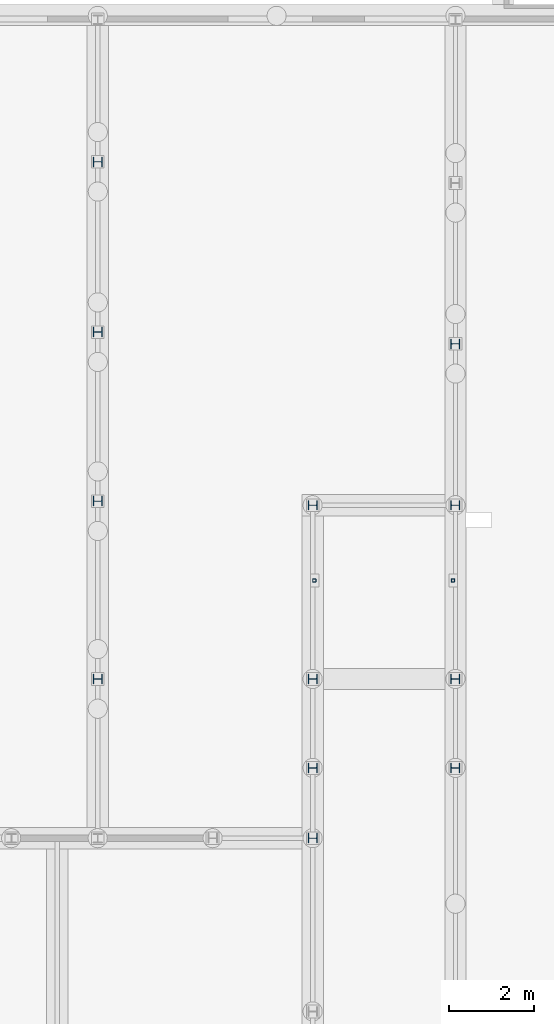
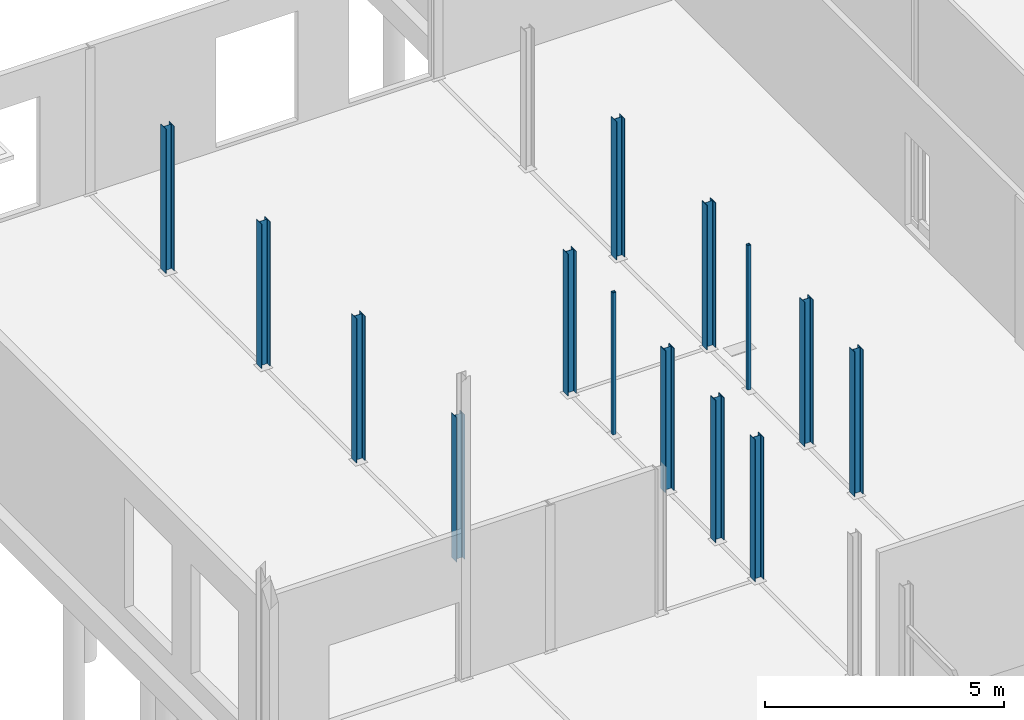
# One storey, part 3 of 18: 14 columns.
"""IFC2X3 building model written with IfcOpenShell, lengths in millimetres."""

from ifc_helpers import new_model, entity, si_unit, converted_unit, derived_unit, direction, frame, frame_2d, origin, place, context, subcontext, project, spatial, polyline, circle_curve, parameter, trimmed, segment, composite_curve, i_section, outline, extrude, source, transform, mapped, material, type_object, type_shapes, element, save


model = new_model("IFC2X3")

# Units and contexts
model_context = context("Model", 3, precision=0.01, world=origin(), true_north=direction((6.12303176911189e-17, 1.0)))
body_context = subcontext(model_context, "Body", "Model", "MODEL_VIEW")
ifc_project = project(units=[si_unit("LENGTHUNIT", "METRE", prefix="MILLI"), si_unit("AREAUNIT", "SQUARE_METRE"), si_unit("VOLUMEUNIT", "CUBIC_METRE"), converted_unit("PLANEANGLEUNIT", "DEGREE", entity("IfcRatioMeasure", 0.0174532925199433), si_unit("PLANEANGLEUNIT", "RADIAN"), dimensions=[0, 0, 0, 0, 0, 0, 0]), si_unit("MASSUNIT", "GRAM", prefix="KILO"), derived_unit("MASSDENSITYUNIT", [(si_unit("MASSUNIT", "GRAM", prefix="KILO"), 1), (si_unit("LENGTHUNIT", "METRE"), -3)]), derived_unit("MOMENTOFINERTIAUNIT", [(si_unit("LENGTHUNIT", "METRE"), 4)]), si_unit("TIMEUNIT", "SECOND"), si_unit("FREQUENCYUNIT", "HERTZ"), si_unit("THERMODYNAMICTEMPERATUREUNIT", "DEGREE_CELSIUS"), derived_unit("THERMALTRANSMITTANCEUNIT", [(si_unit("MASSUNIT", "GRAM", prefix="KILO"), 1), (si_unit("THERMODYNAMICTEMPERATUREUNIT", "KELVIN"), -1), (si_unit("TIMEUNIT", "SECOND"), -3)]), derived_unit("VOLUMETRICFLOWRATEUNIT", [(si_unit("LENGTHUNIT", "METRE"), 3), (si_unit("TIMEUNIT", "SECOND"), -1)]), si_unit("ELECTRICCURRENTUNIT", "AMPERE"), si_unit("ELECTRICVOLTAGEUNIT", "VOLT"), si_unit("POWERUNIT", "WATT"), si_unit("FORCEUNIT", "NEWTON", prefix="KILO"), si_unit("ILLUMINANCEUNIT", "LUX"), si_unit("LUMINOUSFLUXUNIT", "LUMEN"), si_unit("LUMINOUSINTENSITYUNIT", "CANDELA"), derived_unit("USERDEFINED", [(si_unit("MASSUNIT", "GRAM", prefix="KILO"), -1), (si_unit("LENGTHUNIT", "METRE"), -2), (si_unit("TIMEUNIT", "SECOND"), 3), (si_unit("LUMINOUSFLUXUNIT", "LUMEN"), 1)]), derived_unit("LINEARVELOCITYUNIT", [(si_unit("LENGTHUNIT", "METRE"), 1), (si_unit("TIMEUNIT", "SECOND"), -1)]), si_unit("PRESSUREUNIT", "PASCAL"), derived_unit("USERDEFINED", [(si_unit("LENGTHUNIT", "METRE"), -2), (si_unit("MASSUNIT", "GRAM", prefix="KILO"), 1), (si_unit("TIMEUNIT", "SECOND"), -2)]), derived_unit("LINEARFORCEUNIT", [(si_unit("MASSUNIT", "GRAM", prefix="KILO"), 1), (si_unit("LENGTHUNIT", "METRE"), 1), (si_unit("TIMEUNIT", "SECOND"), -2), (si_unit("LENGTHUNIT", "METRE"), -1)]), derived_unit("PLANARFORCEUNIT", [(si_unit("MASSUNIT", "GRAM", prefix="KILO"), 1), (si_unit("LENGTHUNIT", "METRE"), 1), (si_unit("TIMEUNIT", "SECOND"), -2), (si_unit("LENGTHUNIT", "METRE"), -2)])], contexts=[model_context])

# Site, building, storey
site_placement = place(None, origin())
site = spatial("IfcSite", under=ifc_project, at=site_placement, Name="Default", CompositionType="ELEMENT")
building_placement = place(site_placement, origin())
building = spatial("IfcBuilding", under=site, at=building_placement, CompositionType="ELEMENT")
storey_placement = place(building_placement, frame((0.0, 0.0, -1085.0)))
storey = spatial("IfcBuildingStorey", under=building, at=storey_placement, Name="-00 fundatie", CompositionType="ELEMENT", Elevation=-1085.0)

# Columns
ifc_material_1 = material(Name="h2_staal")
column_type_1 = type_object("IfcColumnType", Name="BERSnl_28_SCO_TLB_kolom hea_gen_ISR:kolom gen hea220", PredefinedType="COLUMN", material=ifc_material_1)
shared_shape_1 = source(origin(), body_context, "Body", "SweptSolid", [
    extrude(outline(composite_curve([segment(polyline([(94.0, -110.0), (105.0, -110.0)]), True, "CONTINUOUS"), segment(polyline([(105.0, -110.0), (105.0, 110.0)]), True, "CONTINUOUS"), segment(polyline([(105.0, 110.0), (94.0, 110.0)]), True, "CONTINUOUS"), segment(polyline([(94.0, 110.0), (94.0, 21.5000000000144)]), True, "CONTINUOUS"), segment(trimmed(circle_curve(frame_2d((76.0, 21.5000000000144), x_axis=(1.0, 0.0)), 18.0), [parameter(270.0)], [parameter(0.0)], True, "PARAMETER"), False, "CONTINUOUS"), segment(polyline([(76.0, 3.50000000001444), (-76.0, 3.50000000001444)]), True, "CONTINUOUS"), segment(trimmed(circle_curve(frame_2d((-76.0, 21.5000000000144), x_axis=(0.0, -1.0)), 18.0), [parameter(270.0)], [parameter(0.0)], True, "PARAMETER"), False, "CONTINUOUS"), segment(polyline([(-94.0, 21.5000000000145), (-94.0, 110.0)]), True, "CONTINUOUS"), segment(polyline([(-94.0, 110.0), (-105.0, 110.0)]), True, "CONTINUOUS"), segment(polyline([(-105.0, 110.0), (-105.0, -110.0)]), True, "CONTINUOUS"), segment(polyline([(-105.0, -110.0), (-94.0, -110.0)]), True, "CONTINUOUS"), segment(polyline([(-94.0, -110.0), (-94.0, -21.5000000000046)]), True, "CONTINUOUS"), segment(trimmed(circle_curve(frame_2d((-76.0, -21.5000000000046), x_axis=(-1.0, 0.0)), 18.0), [parameter(269.999999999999)], [parameter(0.0)], True, "PARAMETER"), False, "CONTINUOUS"), segment(polyline([(-76.0, -3.50000000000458), (76.0, -3.50000000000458)]), True, "CONTINUOUS"), segment(trimmed(circle_curve(frame_2d((76.0, -21.5000000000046), x_axis=(0.0, 1.0)), 18.0), [parameter(270.0)], [parameter(0.0)], True, "PARAMETER"), False, "CONTINUOUS"), segment(polyline([(94.0, -21.5000000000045), (94.0, -110.0)]), True, "CONTINUOUS")], self_intersect=False)), frame((0.0, 0.0, -50.0), z_axis=(0.0, 0.0, 1.0), x_axis=(0.0, -1.0, 0.0)), (0.0, 0.0, 1.0), 3685.0),
])
type_shapes(column_type_1, [shared_shape_1])
for number, where, z_axis, x_axis, name in (
    (1, (20569.4349765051, 32067.2966282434, 1085.0), (0.0, 0.0, 1.0), (0.0, 1.0, 0.0), "BERSnl_28_SCO_TLB_kolom hea_gen_ISR:kolom gen hea220"),
    (2, (20569.4349765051, 28067.2966282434, 1085.0), (0.0, 0.0, 1.0), (0.0, 1.0, 0.0), "BERSnl_28_SCO_TLB_kolom hea_gen_ISR:kolom gen hea220"),
    (3, (20569.4349765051, 24097.2966282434, 1085.0), (0.0, 0.0, 1.0), (0.0, 1.0, 0.0), "BERSnl_28_SCO_TLB_kolom hea_gen_ISR:kolom gen hea220"),
    (4, (20569.4349765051, 19921.8399254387, 1085.0), (0.0, 0.0, 1.0), (0.0, 1.0, 0.0), "BERSnl_28_SCO_TLB_kolom hea_gen_ISR:kolom gen hea220"),
    (5, (28969.4349765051, 24002.2966282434, 1085.0), (0.0, 0.0, 1.0), (0.0, 1.0, 0.0), "BERSnl_28_SCO_TLB_kolom hea_gen_ISR:kolom gen hea220"),
    (6, (28969.4349765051, 19922.2966282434, 1085.0), (0.0, 0.0, 1.0), (0.0, 1.0, 0.0), "BERSnl_28_SCO_TLB_kolom hea_gen_ISR:kolom gen hea220"),
):
    element("IfcColumn", number, at=place(storey_placement, frame(where, z_axis=z_axis, x_axis=x_axis)), inside=storey, type_object=column_type_1, Name=name, ObjectType="BERSnl_28_SCO_TLB_kolom hea_gen_ISR:kolom gen hea220", context=body_context, shape_type="MappedRepresentation", body=[
        mapped(shared_shape_1, transform((0.0, 0.0, 0.0), scale=1.0)),
    ])
column_type_2 = type_object("IfcColumnType", Name="BERSnl_28_SCO_TLB_kolom hea_gen_ISR:kolom gen hea220", PredefinedType="COLUMN", material=ifc_material_1)
shared_shape_2 = source(origin(), body_context, "Body", "SweptSolid", [
    extrude(i_section(OverallWidth=220.000000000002, OverallDepth=210.0, WebThickness=7.00000000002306, FlangeThickness=11.0000000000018, FilletRadius=17.9999999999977, at=frame_2d((0.0, -6.49436060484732e-12), x_axis=(1.0, 0.0))), frame((28969.4349765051, 27792.2966282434, -50.0), z_axis=(0.0, 0.0, 1.0), x_axis=(0.0, -1.0, 0.0)), (0.0, 0.0, 1.0), 3525.0),
])
type_shapes(column_type_2, [shared_shape_2])
column_1_placement = place(storey_placement, frame((0.0, 0.0, 1085.0)))
element("IfcColumn", 7, at=column_1_placement, inside=storey, type_object=column_type_2, Name="BERSnl_28_SCO_TLB_kolom hea_gen_ISR:kolom gen hea220", ObjectType="BERSnl_28_SCO_TLB_kolom hea_gen_ISR:kolom gen hea220", context=body_context, shape_type="MappedRepresentation", body=[
    mapped(shared_shape_2, transform((0.0, 0.0, 0.0), scale=1.0)),
])
column_type_3 = type_object("IfcColumnType", Name="BERSnl_28_SCO_TLB_kolom hea_gen_ISR:kolom gen hea220", PredefinedType="COLUMN", material=ifc_material_1)
shared_shape_3 = source(origin(), body_context, "Body", "SweptSolid", [
    extrude(i_section(OverallWidth=220.0, OverallDepth=210.0, WebThickness=7.00000000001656, FlangeThickness=11.0000000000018, FilletRadius=18.0000000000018, at=frame_2d((5.41433564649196e-12, -2.1600499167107e-12), x_axis=(1.0, 0.0))), frame((28969.4349765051, 17833.5697997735, -50.0), z_axis=(0.0, 0.0, 1.0), x_axis=(0.0, -1.0, 0.0)), (0.0, 0.0, 1.0), 3685.0),
])
type_shapes(column_type_3, [shared_shape_3])
column_2_placement = place(storey_placement, frame((0.0, 0.0, 1085.0)))
element("IfcColumn", 8, at=column_2_placement, inside=storey, type_object=column_type_3, Name="BERSnl_28_SCO_TLB_kolom hea_gen_ISR:kolom gen hea220", ObjectType="BERSnl_28_SCO_TLB_kolom hea_gen_ISR:kolom gen hea220", context=body_context, shape_type="MappedRepresentation", body=[
    mapped(shared_shape_3, transform((0.0, 0.0, 0.0), scale=1.0)),
])
column_type_4 = type_object("IfcColumnType", Name="BERSnl_28_SCO_TLB_kolom hea_gen_ISR:kolom gen hea220", PredefinedType="COLUMN", material=ifc_material_1)
shared_shape_4 = source(origin(), body_context, "Body", "SweptSolid", [
    extrude(i_section(OverallWidth=220.000000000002, OverallDepth=210.0, WebThickness=7.00000000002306, FlangeThickness=11.0000000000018, FilletRadius=17.9999999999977, at=frame_2d((8.66151594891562e-12, -6.49436060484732e-12), x_axis=(1.0, 0.0))), frame((25615.4349765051, 24002.2966282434, -50.0), z_axis=(0.0, 0.0, 1.0), x_axis=(0.0, -1.0, 0.0)), (0.0, 0.0, 1.0), 3619.99999999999),
])
type_shapes(column_type_4, [shared_shape_4])
column_3_placement = place(storey_placement, frame((0.0, 0.0, 1085.0)))
element("IfcColumn", 9, at=column_3_placement, inside=storey, type_object=column_type_4, Name="BERSnl_28_SCO_TLB_kolom hea_gen_ISR:kolom gen hea220", ObjectType="BERSnl_28_SCO_TLB_kolom hea_gen_ISR:kolom gen hea220", context=body_context, shape_type="MappedRepresentation", body=[
    mapped(shared_shape_4, transform((0.0, 0.0, 0.0), scale=1.0)),
])
column_type_5 = type_object("IfcColumnType", Name="BERSnl_28_SCO_TLB_kolom hea_gen_ISR:kolom gen hea220", PredefinedType="COLUMN", material=ifc_material_1)
shared_shape_5 = source(origin(), body_context, "Body", "SweptSolid", [
    extrude(i_section(OverallWidth=220.000000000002, OverallDepth=210.0, WebThickness=7.00000000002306, FlangeThickness=11.0000000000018, FilletRadius=17.9999999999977, at=frame_2d((0.0, -2.1600499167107e-12), x_axis=(1.0, 0.0))), frame((25615.4349765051, 19922.2966282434, -50.0), z_axis=(0.0, 0.0, 1.0), x_axis=(0.0, -1.0, 0.0)), (0.0, 0.0, 1.0), 3619.99999999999),
])
type_shapes(column_type_5, [shared_shape_5])
column_4_placement = place(storey_placement, frame((0.0, 0.0, 1085.0)))
element("IfcColumn", 10, at=column_4_placement, inside=storey, type_object=column_type_5, Name="BERSnl_28_SCO_TLB_kolom hea_gen_ISR:kolom gen hea220", ObjectType="BERSnl_28_SCO_TLB_kolom hea_gen_ISR:kolom gen hea220", context=body_context, shape_type="MappedRepresentation", body=[
    mapped(shared_shape_5, transform((0.0, 0.0, 0.0), scale=1.0)),
])
ifc_material_2 = material(Name="00_Staal_generiek")
column_type_6 = type_object("IfcColumnType", Name="BERSnl_28_SCO_TLB_kolom koker_gen_ISR:kolom gen k80x80x8", PredefinedType="COLUMN", material=ifc_material_2)
shared_shape_6 = source(origin(), body_context, "Body", "SweptSolid", [
    extrude(outline(composite_curve([segment(trimmed(circle_curve(frame_2d((30.0, 30.0), x_axis=(1.0, 0.0)), 10.0), [parameter(360.0)], [parameter(89.9999999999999)], True, "PARAMETER"), True, "CONTINUOUS"), segment(polyline([(30.0, 40.0), (-30.0, 40.0)]), True, "CONTINUOUS"), segment(trimmed(circle_curve(frame_2d((-30.0, 30.0), x_axis=(1.0, 0.0)), 10.0), [parameter(90.0000000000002)], [parameter(180.0)], True, "PARAMETER"), True, "CONTINUOUS"), segment(polyline([(-40.0, 30.0), (-40.0, -30.0)]), True, "CONTINUOUS"), segment(trimmed(circle_curve(frame_2d((-30.0, -30.0), x_axis=(1.0, 0.0)), 10.0), [parameter(180.0)], [parameter(270.0)], True, "PARAMETER"), True, "CONTINUOUS"), segment(polyline([(-30.0, -40.0), (30.0, -40.0)]), True, "CONTINUOUS"), segment(trimmed(circle_curve(frame_2d((30.0, -30.0), x_axis=(1.0, 0.0)), 10.0), [parameter(270.0)], [parameter(2.54444374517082e-13)], True, "PARAMETER"), True, "CONTINUOUS"), segment(polyline([(40.0, -30.0), (40.0, 30.0)]), True, "CONTINUOUS")], self_intersect=False), holes=[composite_curve([segment(polyline([(-30.0, 32.0), (30.0, 32.0)]), True, "CONTINUOUS"), segment(trimmed(circle_curve(frame_2d((30.0, 30.0), x_axis=(1.0, 0.0)), 2.0), [parameter(360.0)], [parameter(90.0000000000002)], True, "PARAMETER"), False, "CONTINUOUS"), segment(polyline([(32.0, 30.0), (32.0, -30.0)]), True, "CONTINUOUS"), segment(trimmed(circle_curve(frame_2d((30.0, -30.0), x_axis=(1.0, 0.0)), 2.0), [parameter(269.999999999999)], [parameter(359.999999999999)], True, "PARAMETER"), False, "CONTINUOUS"), segment(polyline([(30.0, -32.0), (-30.0, -32.0)]), True, "CONTINUOUS"), segment(trimmed(circle_curve(frame_2d((-30.0, -30.0), x_axis=(1.0, 0.0)), 2.0), [parameter(180.0)], [parameter(270.0)], True, "PARAMETER"), False, "CONTINUOUS"), segment(polyline([(-32.0, -30.0), (-32.0, 30.0)]), True, "CONTINUOUS"), segment(trimmed(circle_curve(frame_2d((-30.0, 30.0), x_axis=(1.0, 0.0)), 2.0), [parameter(89.9999999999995)], [parameter(180.0)], True, "PARAMETER"), False, "CONTINUOUS")], self_intersect=False)]), frame((25654.4349765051, 22237.2966282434, -50.0), z_axis=(0.0, 0.0, 1.0), x_axis=(-1.0, 0.0, 0.0)), (0.0, 0.0, 1.0), 3619.99999999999),
])
type_shapes(column_type_6, [shared_shape_6])
column_5_placement = place(storey_placement, frame((0.0, 0.0, 1085.0)))
element("IfcColumn", 11, at=column_5_placement, inside=storey, type_object=column_type_6, material=ifc_material_2, Name="BERSnl_28_SCO_TLB_kolom koker_gen_ISR:kolom gen k80x80x8", ObjectType="BERSnl_28_SCO_TLB_kolom koker_gen_ISR:kolom gen k80x80x8", context=body_context, shape_type="MappedRepresentation", body=[
    mapped(shared_shape_6, transform((0.0, 0.0, 0.0), scale=1.0)),
])
column_type_7 = type_object("IfcColumnType", Name="BERSnl_28_SCO_TLB_kolom koker_gen_ISR:kolom gen k80x80x8", PredefinedType="COLUMN", material=ifc_material_2)
shared_shape_7 = source(origin(), body_context, "Body", "SweptSolid", [
    extrude(outline(composite_curve([segment(trimmed(circle_curve(frame_2d((30.0, 30.0), x_axis=(1.0, 0.0)), 10.0), [parameter(360.0)], [parameter(89.9999999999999)], True, "PARAMETER"), True, "CONTINUOUS"), segment(polyline([(30.0, 40.0), (-30.0, 40.0)]), True, "CONTINUOUS"), segment(trimmed(circle_curve(frame_2d((-30.0, 30.0), x_axis=(1.0, 0.0)), 10.0), [parameter(90.0000000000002)], [parameter(180.0)], True, "PARAMETER"), True, "CONTINUOUS"), segment(polyline([(-40.0, 30.0), (-40.0, -30.0)]), True, "CONTINUOUS"), segment(trimmed(circle_curve(frame_2d((-30.0, -30.0), x_axis=(1.0, 0.0)), 10.0), [parameter(180.0)], [parameter(270.0)], True, "PARAMETER"), True, "CONTINUOUS"), segment(polyline([(-30.0, -40.0), (30.0, -40.0)]), True, "CONTINUOUS"), segment(trimmed(circle_curve(frame_2d((30.0, -30.0), x_axis=(1.0, 0.0)), 10.0), [parameter(270.0)], [parameter(2.54444374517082e-13)], True, "PARAMETER"), True, "CONTINUOUS"), segment(polyline([(40.0, -30.0), (40.0, 30.0)]), True, "CONTINUOUS")], self_intersect=False), holes=[composite_curve([segment(polyline([(-30.0, 32.0), (30.0, 32.0)]), True, "CONTINUOUS"), segment(trimmed(circle_curve(frame_2d((30.0, 30.0), x_axis=(1.0, 0.0)), 2.0), [parameter(360.0)], [parameter(90.0000000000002)], True, "PARAMETER"), False, "CONTINUOUS"), segment(polyline([(32.0, 30.0), (32.0, -30.0)]), True, "CONTINUOUS"), segment(trimmed(circle_curve(frame_2d((30.0, -30.0), x_axis=(1.0, 0.0)), 2.0), [parameter(269.999999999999)], [parameter(359.999999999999)], True, "PARAMETER"), False, "CONTINUOUS"), segment(polyline([(30.0, -32.0), (-30.0, -32.0)]), True, "CONTINUOUS"), segment(trimmed(circle_curve(frame_2d((-30.0, -30.0), x_axis=(1.0, 0.0)), 2.0), [parameter(180.0)], [parameter(270.0)], True, "PARAMETER"), False, "CONTINUOUS"), segment(polyline([(-32.0, -30.0), (-32.0, 30.0)]), True, "CONTINUOUS"), segment(trimmed(circle_curve(frame_2d((-30.0, 30.0), x_axis=(1.0, 0.0)), 2.0), [parameter(89.9999999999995)], [parameter(180.0)], True, "PARAMETER"), False, "CONTINUOUS")], self_intersect=False)]), frame((0.0, 0.0, -50.0), z_axis=(0.0, 0.0, 1.0), x_axis=(-1.0, 0.0, 0.0)), (0.0, 0.0, 1.0), 3685.0),
])
type_shapes(column_type_7, [shared_shape_7])
column_6_placement = place(storey_placement, frame((28909.434976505, 22237.2966282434, 1085.0)))
element("IfcColumn", 12, at=column_6_placement, inside=storey, type_object=column_type_7, material=ifc_material_2, Name="BERSnl_28_SCO_TLB_kolom koker_gen_ISR:kolom gen k80x80x8", ObjectType="BERSnl_28_SCO_TLB_kolom koker_gen_ISR:kolom gen k80x80x8", context=body_context, shape_type="MappedRepresentation", body=[
    mapped(shared_shape_7, transform((0.0, 0.0, 0.0), scale=1.0)),
])
column_type_8 = type_object("IfcColumnType", Name="BERSnl_28_SCO_TLB_kolom hea_gen_ISR:kolom gen hea220", PredefinedType="COLUMN", material=ifc_material_1)
shared_shape_8 = source(origin(), body_context, "Body", "SweptSolid", [
    extrude(i_section(OverallWidth=220.0, OverallDepth=210.0, WebThickness=7.00000000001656, FlangeThickness=11.0000000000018, FilletRadius=18.0000000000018, at=frame_2d((3.25428572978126e-12, 2.1600499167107e-12), x_axis=(1.0, 0.0))), frame((25615.4349765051, 17833.5697997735, -50.0), z_axis=(0.0, 0.0, 1.0), x_axis=(0.0, -1.0, 0.0)), (0.0, 0.0, 1.0), 3625.0),
])
type_shapes(column_type_8, [shared_shape_8])
column_7_placement = place(storey_placement, frame((0.0, 0.0, 1085.0)))
element("IfcColumn", 13, at=column_7_placement, inside=storey, type_object=column_type_8, Name="BERSnl_28_SCO_TLB_kolom hea_gen_ISR:kolom gen hea220", ObjectType="BERSnl_28_SCO_TLB_kolom hea_gen_ISR:kolom gen hea220", context=body_context, shape_type="MappedRepresentation", body=[
    mapped(shared_shape_8, transform((0.0, 0.0, 0.0), scale=1.0)),
])
column_type_9 = type_object("IfcColumnType", Name="BERSnl_28_SCO_TLB_kolom hea_gen_ISR:kolom gen hea220", PredefinedType="COLUMN", material=ifc_material_1)
shared_shape_9 = source(origin(), body_context, "Body", "SweptSolid", [
    extrude(i_section(OverallWidth=220.0, OverallDepth=210.0, WebThickness=7.00000000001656, FlangeThickness=11.0000000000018, FilletRadius=18.0000000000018, at=frame_2d((9.74864633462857e-12, -2.1600499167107e-12), x_axis=(1.0, 0.0))), frame((25615.4349765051, 16182.2966282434, -50.0), z_axis=(0.0, 0.0, 1.0), x_axis=(0.0, -1.0, 0.0)), (0.0, 0.0, 1.0), 3625.0),
])
type_shapes(column_type_9, [shared_shape_9])
column_8_placement = place(storey_placement, frame((0.0, 0.0, 1085.0)))
element("IfcColumn", 14, at=column_8_placement, inside=storey, type_object=column_type_9, Name="BERSnl_28_SCO_TLB_kolom hea_gen_ISR:kolom gen hea220", ObjectType="BERSnl_28_SCO_TLB_kolom hea_gen_ISR:kolom gen hea220", context=body_context, shape_type="MappedRepresentation", body=[
    mapped(shared_shape_9, transform((0.0, 0.0, 0.0), scale=1.0)),
])

save(model, "model.ifc")
